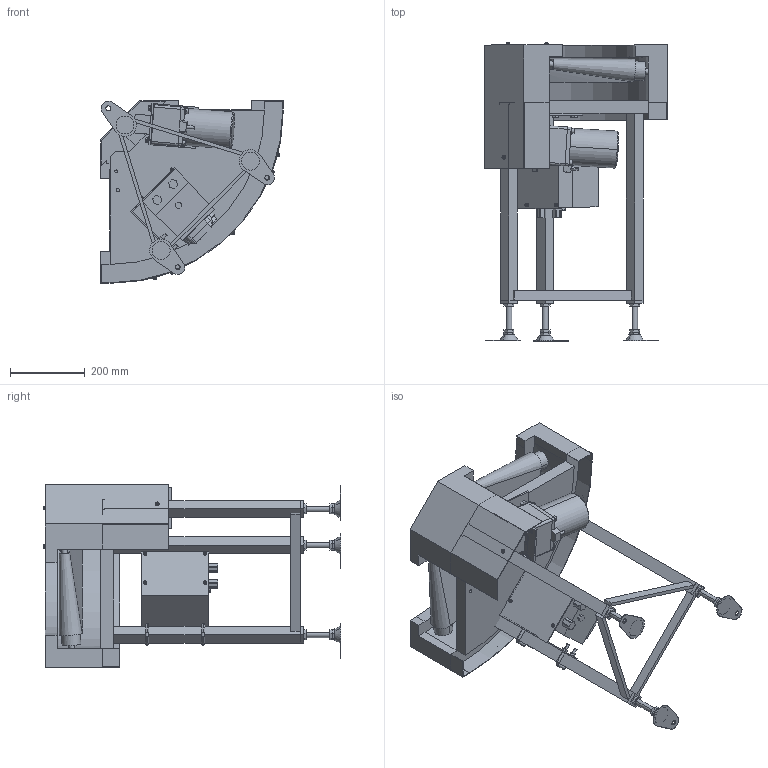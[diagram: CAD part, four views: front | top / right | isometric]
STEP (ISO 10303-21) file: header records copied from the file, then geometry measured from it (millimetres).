
FILE_DESCRIPTION (( 'STEP AP214' ), '1' );
FILE_NAME ('FBC-309-200-90°-R-IV-60.STEP', '2023-03-07T06:24:05', ( '' ), ( '' ), 'SwSTEP 2.0', 'SolidWorks 2017', '' );
FILE_SCHEMA (( 'AUTOMOTIVE_DESIGN' ));
Length unit declared in the file: millimetre
Products named in the file (1): FBC-309-200-90°-R-IV-60
Bounding box: 488 x 796.1 x 488 mm (x, y, z)
Volume: 26307315.1 mm3; surface area: 2286472.6 mm2
Topology: 40 solids, 41 shells, 1178 faces, 2796 edges, 1789 vertices
Faces by surface type: plane 674, cylinder 364, cone 70, torus 36, bspline 34
Entity records: 38105 total; most frequent: CARTESIAN_POINT 10104, DIRECTION 5763, ORIENTED_EDGE 5560, EDGE_CURVE 2780, AXIS2_PLACEMENT_3D 2024, VERTEX_POINT 1789, LINE 1715, VECTOR 1715
